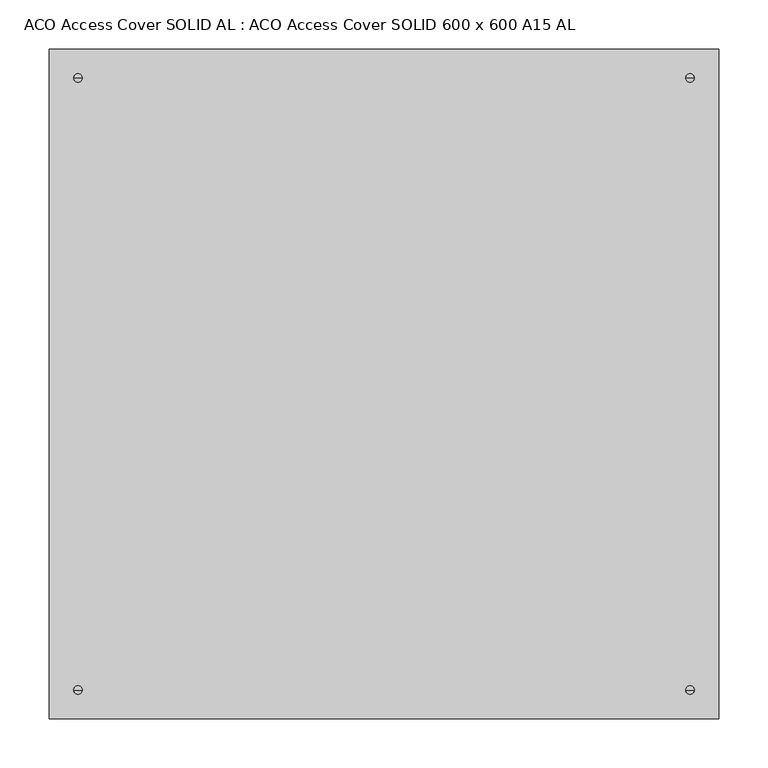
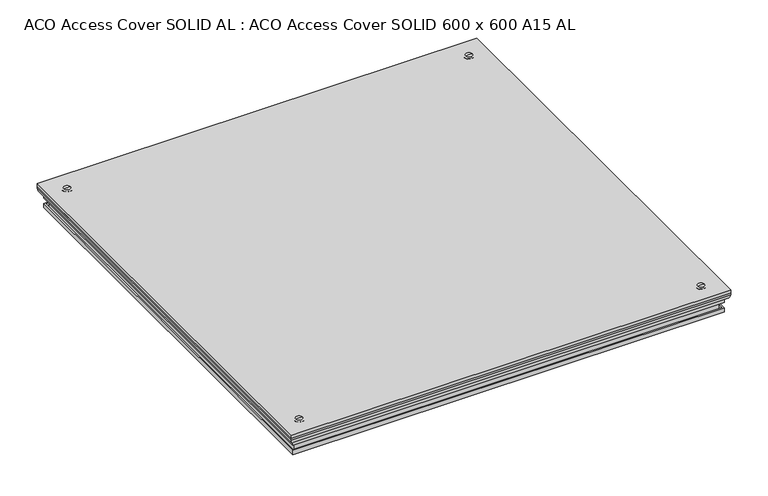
"""IFC4 building model written with IfcOpenShell, lengths in millimetres: proxy geometry, ACO Access Cover SOLID AL : ACO Access Cover SOLID 600 x 600 A15 AL."""

from ifc_helpers import new_model, si_unit, point, frame, origin, place, context, project, spatial, polyline, circle_curve, ellipse_curve, trimmed, outline, extrude, source, transform, mapped, element, save
from ifc_brep_helpers import plane_surface, cylinder_surface, revolved_surface, advanced_brep


def aco_access_cover_solid_al_aco_access_cover_solid_600_x_600_7d305e2f(model_context):
    return source(origin(), model_context, "Body", "SolidModel", [
        extrude(outline(polyline([(339.0, -339.0), (-339.0, -339.0), (-339.0, 339.0), (339.0, 339.0), (339.0, -339.0)])), frame((0.0, 0.0, -5.0), z_axis=(0.0, 0.0, 1.0), x_axis=(1.0, 0.0, 0.0)), (0.0, 0.0, 1.0), 5.5),
        advanced_brep(
        [(307.1765, -310.0, -27.4), (312.8235, -310.0, -27.4), (310.0, -310.0, -27.4), (307.1765, -310.0, -24.9096875), (312.8235, -310.0, -24.9096875), (306.5, -310.0, -24.2331875), (313.5, -310.0, -24.2331875), (306.5, -310.0, -6.5622151), (313.5, -310.0, -6.5622151), (306.6863961, -310.0, -5.1463961), (313.3136039, -310.0, -5.1463961), (301.5305132, -310.0, 0.0094868), (318.4694868, -310.0, 0.0094868), (310.0, -310.0, 1.4820616)],
        [
            (0, 1, circle_curve(frame((310.0, -310.0, -27.4), z_axis=(0.0, 0.0, -1.0), x_axis=(1.0, 0.0, 0.0)), 2.8235)),
            (1, 2),
            (2, 0),
            (1, 0, circle_curve(frame((310.0, -310.0, -27.4), z_axis=(0.0, 0.0, -1.0), x_axis=(1.0, 0.0, 0.0)), 2.8235)),
            (3, 4, circle_curve(frame((310.0, -310.0, -24.9096875), z_axis=(0.0, 0.0, -1.0), x_axis=(1.0, 0.0, 0.0)), 2.8235)),
            (4, 1),
            (0, 3),
            (4, 3, circle_curve(frame((310.0, -310.0, -24.9096875), z_axis=(0.0, 0.0, -1.0), x_axis=(1.0, 0.0, 0.0)), 2.8235)),
            (5, 6, circle_curve(frame((310.0, -310.0, -24.2331875), z_axis=(0.0, 0.0, -1.0), x_axis=(1.0, 0.0, 0.0)), 3.5)),
            (6, 4),
            (3, 5),
            (6, 5, circle_curve(frame((310.0, -310.0, -24.2331875), z_axis=(0.0, 0.0, -1.0), x_axis=(1.0, 0.0, 0.0)), 3.5)),
            (7, 8, circle_curve(frame((310.0, -310.0, -6.5622151), z_axis=(0.0, 0.0, -1.0), x_axis=(1.0, 0.0, 0.0)), 3.5)),
            (8, 6),
            (5, 7),
            (8, 7, circle_curve(frame((310.0, -310.0, -6.5622151), z_axis=(0.0, 0.0, -1.0), x_axis=(1.0, 0.0, 0.0)), 3.5)),
            (9, 10, circle_curve(frame((310.0, -310.0, -5.1463961), z_axis=(0.0, 0.0, -1.0), x_axis=(1.0, 0.0, 0.0)), 3.3136039)),
            (10, 8, circle_curve(frame((313.95, -310.0, -5.7827922), z_axis=(0.0, 1.0, 0.0), x_axis=(1.0, 0.0, 0.0)), 0.9)),
            (7, 9, circle_curve(frame((306.05, -310.0, -5.7827922), z_axis=(0.0, 1.0, 0.0), x_axis=(-1.0, 0.0, 0.0)), 0.9)),
            (10, 9, circle_curve(frame((310.0, -310.0, -5.1463961), z_axis=(0.0, 0.0, -1.0), x_axis=(1.0, 0.0, 0.0)), 3.3136039)),
            (11, 12, circle_curve(frame((310.0, -310.0, 0.0094868), z_axis=(0.0, 0.0, -1.0), x_axis=(1.0, 0.0, 0.0)), 8.4694868)),
            (12, 10),
            (9, 11),
            (12, 11, circle_curve(frame((310.0, -310.0, 0.0094868), z_axis=(0.0, 0.0, -1.0), x_axis=(1.0, 0.0, 0.0)), 8.4694868)),
            (13, 12, circle_curve(frame((308.550307, -310.0, -31.9481579), z_axis=(0.0, 1.0, 0.0), x_axis=(1.0, 0.0, 0.0)), 33.4616375)),
            (11, 13, circle_curve(frame((311.449693, -310.0, -31.9481579), z_axis=(0.0, 1.0, 0.0), x_axis=(-1.0, 0.0, 0.0)), 33.4616375)),
        ],
        [
            plane_surface(frame((310.0, -310.0, -27.4), z_axis=(0.0, 0.0, -1.0), x_axis=(1.0, 0.0, 0.0))),
            cylinder_surface(frame((310.0, -310.0, 6.3110982), z_axis=(0.0, 0.0, 1.0), x_axis=(1.0, 0.0, 0.0)), 2.8235),
            revolved_surface(polyline([(312.8235, -310.0, -24.9096875), (313.5, -310.0, -24.2331875)]), (310.0, -310.0, 6.3110982), (0.0, 0.0, 1.0)),
            cylinder_surface(frame((310.0, -310.0, 6.3110982), z_axis=(0.0, 0.0, 1.0), x_axis=(1.0, 0.0, 0.0)), 3.5),
            revolved_surface(trimmed(ellipse_curve(frame((313.95, -310.0, -5.7827922), z_axis=(0.0, -1.0, 0.0), x_axis=(1.0, 0.0, 0.0)), 0.9, 0.9), [point((313.5, -310.0, -6.5622151))], [point((313.3136039, -310.0, -5.1463961))], True, "CARTESIAN"), (310.0, -310.0, 6.3110982), (0.0, 0.0, 1.0)),
            revolved_surface(polyline([(313.3136039, -310.0, -5.1463961), (318.4694868, -310.0, 0.0094868)]), (310.0, -310.0, 6.3110982), (0.0, 0.0, 1.0)),
            revolved_surface(trimmed(ellipse_curve(frame((308.550307, -310.0, -31.9481579), z_axis=(0.0, -1.0, 0.0), x_axis=(1.0, 0.0, 0.0)), 33.4616375, 33.4616375), [point((318.4694868, -310.0, 0.0094868))], [point((310.0, -310.0, 1.4820616))], True, "CARTESIAN"), (310.0, -310.0, 6.3110982), (0.0, 0.0, 1.0)),
        ],
        [
            (0, [[1, 2, 3]]),
            (0, [[4, -3, -2]]),
            (1, [[5, 6, -1, 7]]),
            (1, [[8, -7, -4, -6]]),
            (2, [[9, 10, -5, 11]]),
            (2, [[12, -11, -8, -10]]),
            (3, [[13, 14, -9, 15]]),
            (3, [[16, -15, -12, -14]]),
            (4, [[17, 18, -13, 19]]),
            (4, [[20, -19, -16, -18]]),
            (5, [[21, 22, -17, 23]]),
            (5, [[24, -23, -20, -22]]),
            (6, [[25, -21, 26]]),
            (6, [[-26, -24, -25]]),
        ],
    ),
        advanced_brep(
        [(-312.8235, -310.0, -27.4), (-307.1765, -310.0, -27.4), (-310.0, -310.0, -27.4), (-312.8235, -310.0, -24.9096875), (-307.1765, -310.0, -24.9096875), (-313.5, -310.0, -24.2331875), (-306.5, -310.0, -24.2331875), (-313.5, -310.0, -6.5622151), (-306.5, -310.0, -6.5622151), (-313.3136039, -310.0, -5.1463961), (-306.6863961, -310.0, -5.1463961), (-318.4694868, -310.0, 0.0094868), (-301.5305132, -310.0, 0.0094868), (-310.0, -310.0, 1.4820616)],
        [
            (0, 1, circle_curve(frame((-310.0, -310.0, -27.4), z_axis=(0.0, 0.0, -1.0), x_axis=(1.0, 0.0, 0.0)), 2.8235)),
            (1, 2),
            (2, 0),
            (1, 0, circle_curve(frame((-310.0, -310.0, -27.4), z_axis=(0.0, 0.0, -1.0), x_axis=(1.0, 0.0, 0.0)), 2.8235)),
            (3, 4, circle_curve(frame((-310.0, -310.0, -24.9096875), z_axis=(0.0, 0.0, -1.0), x_axis=(1.0, 0.0, 0.0)), 2.8235)),
            (4, 1),
            (0, 3),
            (4, 3, circle_curve(frame((-310.0, -310.0, -24.9096875), z_axis=(0.0, 0.0, -1.0), x_axis=(1.0, 0.0, 0.0)), 2.8235)),
            (5, 6, circle_curve(frame((-310.0, -310.0, -24.2331875), z_axis=(0.0, 0.0, -1.0), x_axis=(1.0, 0.0, 0.0)), 3.5)),
            (6, 4),
            (3, 5),
            (6, 5, circle_curve(frame((-310.0, -310.0, -24.2331875), z_axis=(0.0, 0.0, -1.0), x_axis=(1.0, 0.0, 0.0)), 3.5)),
            (7, 8, circle_curve(frame((-310.0, -310.0, -6.5622151), z_axis=(0.0, 0.0, -1.0), x_axis=(1.0, 0.0, 0.0)), 3.5)),
            (8, 6),
            (5, 7),
            (8, 7, circle_curve(frame((-310.0, -310.0, -6.5622151), z_axis=(0.0, 0.0, -1.0), x_axis=(1.0, 0.0, 0.0)), 3.5)),
            (9, 10, circle_curve(frame((-310.0, -310.0, -5.1463961), z_axis=(0.0, 0.0, -1.0), x_axis=(1.0, 0.0, 0.0)), 3.3136039)),
            (10, 8, circle_curve(frame((-306.05, -310.0, -5.7827922), z_axis=(0.0, 1.0, 0.0), x_axis=(1.0, 0.0, 0.0)), 0.9)),
            (7, 9, circle_curve(frame((-313.95, -310.0, -5.7827922), z_axis=(0.0, 1.0, 0.0), x_axis=(-1.0, 0.0, 0.0)), 0.9)),
            (10, 9, circle_curve(frame((-310.0, -310.0, -5.1463961), z_axis=(0.0, 0.0, -1.0), x_axis=(1.0, 0.0, 0.0)), 3.3136039)),
            (11, 12, circle_curve(frame((-310.0, -310.0, 0.0094868), z_axis=(0.0, 0.0, -1.0), x_axis=(1.0, 0.0, 0.0)), 8.4694868)),
            (12, 10),
            (9, 11),
            (12, 11, circle_curve(frame((-310.0, -310.0, 0.0094868), z_axis=(0.0, 0.0, -1.0), x_axis=(1.0, 0.0, 0.0)), 8.4694868)),
            (13, 12, circle_curve(frame((-311.449693, -310.0, -31.9481579), z_axis=(0.0, 1.0, 0.0), x_axis=(1.0, 0.0, 0.0)), 33.4616375)),
            (11, 13, circle_curve(frame((-308.550307, -310.0, -31.9481579), z_axis=(0.0, 1.0, 0.0), x_axis=(-1.0, 0.0, 0.0)), 33.4616375)),
        ],
        [
            plane_surface(frame((-310.0, -310.0, -27.4), z_axis=(0.0, 0.0, -1.0), x_axis=(1.0, 0.0, 0.0))),
            cylinder_surface(frame((-310.0, -310.0, 6.3110982), z_axis=(0.0, 0.0, 1.0), x_axis=(1.0, 0.0, 0.0)), 2.8235),
            revolved_surface(polyline([(-307.1765, -310.0, -24.9096875), (-306.5, -310.0, -24.2331875)]), (-310.0, -310.0, 6.3110982), (0.0, 0.0, 1.0)),
            cylinder_surface(frame((-310.0, -310.0, 6.3110982), z_axis=(0.0, 0.0, 1.0), x_axis=(1.0, 0.0, 0.0)), 3.5),
            revolved_surface(trimmed(ellipse_curve(frame((-306.05, -310.0, -5.7827922), z_axis=(0.0, -1.0, 0.0), x_axis=(1.0, 0.0, 0.0)), 0.9, 0.9), [point((-306.5, -310.0, -6.5622151))], [point((-306.6863961, -310.0, -5.1463961))], True, "CARTESIAN"), (-310.0, -310.0, 6.3110982), (0.0, 0.0, 1.0)),
            revolved_surface(polyline([(-306.6863961, -310.0, -5.1463961), (-301.5305132, -310.0, 0.0094868)]), (-310.0, -310.0, 6.3110982), (0.0, 0.0, 1.0)),
            revolved_surface(trimmed(ellipse_curve(frame((-311.449693, -310.0, -31.9481579), z_axis=(0.0, -1.0, 0.0), x_axis=(1.0, 0.0, 0.0)), 33.4616375, 33.4616375), [point((-301.5305132, -310.0, 0.0094868))], [point((-310.0, -310.0, 1.4820616))], True, "CARTESIAN"), (-310.0, -310.0, 6.3110982), (0.0, 0.0, 1.0)),
        ],
        [
            (0, [[1, 2, 3]]),
            (0, [[4, -3, -2]]),
            (1, [[5, 6, -1, 7]]),
            (1, [[8, -7, -4, -6]]),
            (2, [[9, 10, -5, 11]]),
            (2, [[12, -11, -8, -10]]),
            (3, [[13, 14, -9, 15]]),
            (3, [[16, -15, -12, -14]]),
            (4, [[17, 18, -13, 19]]),
            (4, [[20, -19, -16, -18]]),
            (5, [[21, 22, -17, 23]]),
            (5, [[24, -23, -20, -22]]),
            (6, [[25, -21, 26]]),
            (6, [[-26, -24, -25]]),
        ],
    ),
        advanced_brep(
        [(-312.8235, 310.0, -27.4), (-307.1765, 310.0, -27.4), (-310.0, 310.0, -27.4), (-312.8235, 310.0, -24.9096875), (-307.1765, 310.0, -24.9096875), (-313.5, 310.0, -24.2331875), (-306.5, 310.0, -24.2331875), (-313.5, 310.0, -6.5622151), (-306.5, 310.0, -6.5622151), (-313.3136039, 310.0, -5.1463961), (-306.6863961, 310.0, -5.1463961), (-318.4694868, 310.0, 0.0094868), (-301.5305132, 310.0, 0.0094868), (-310.0, 310.0, 1.4820616)],
        [
            (0, 1, circle_curve(frame((-310.0, 310.0, -27.4), z_axis=(0.0, 0.0, -1.0), x_axis=(1.0, 0.0, 0.0)), 2.8235)),
            (1, 2),
            (2, 0),
            (1, 0, circle_curve(frame((-310.0, 310.0, -27.4), z_axis=(0.0, 0.0, -1.0), x_axis=(1.0, 0.0, 0.0)), 2.8235)),
            (3, 4, circle_curve(frame((-310.0, 310.0, -24.9096875), z_axis=(0.0, 0.0, -1.0), x_axis=(1.0, 0.0, 0.0)), 2.8235)),
            (4, 1),
            (0, 3),
            (4, 3, circle_curve(frame((-310.0, 310.0, -24.9096875), z_axis=(0.0, 0.0, -1.0), x_axis=(1.0, 0.0, 0.0)), 2.8235)),
            (5, 6, circle_curve(frame((-310.0, 310.0, -24.2331875), z_axis=(0.0, 0.0, -1.0), x_axis=(1.0, 0.0, 0.0)), 3.5)),
            (6, 4),
            (3, 5),
            (6, 5, circle_curve(frame((-310.0, 310.0, -24.2331875), z_axis=(0.0, 0.0, -1.0), x_axis=(1.0, 0.0, 0.0)), 3.5)),
            (7, 8, circle_curve(frame((-310.0, 310.0, -6.5622151), z_axis=(0.0, 0.0, -1.0), x_axis=(1.0, 0.0, 0.0)), 3.5)),
            (8, 6),
            (5, 7),
            (8, 7, circle_curve(frame((-310.0, 310.0, -6.5622151), z_axis=(0.0, 0.0, -1.0), x_axis=(1.0, 0.0, 0.0)), 3.5)),
            (9, 10, circle_curve(frame((-310.0, 310.0, -5.1463961), z_axis=(0.0, 0.0, -1.0), x_axis=(1.0, 0.0, 0.0)), 3.3136039)),
            (10, 8, circle_curve(frame((-306.05, 310.0, -5.7827922), z_axis=(0.0, 1.0, 0.0), x_axis=(1.0, 0.0, 0.0)), 0.9)),
            (7, 9, circle_curve(frame((-313.95, 310.0, -5.7827922), z_axis=(0.0, 1.0, 0.0), x_axis=(-1.0, 0.0, 0.0)), 0.9)),
            (10, 9, circle_curve(frame((-310.0, 310.0, -5.1463961), z_axis=(0.0, 0.0, -1.0), x_axis=(1.0, 0.0, 0.0)), 3.3136039)),
            (11, 12, circle_curve(frame((-310.0, 310.0, 0.0094868), z_axis=(0.0, 0.0, -1.0), x_axis=(1.0, 0.0, 0.0)), 8.4694868)),
            (12, 10),
            (9, 11),
            (12, 11, circle_curve(frame((-310.0, 310.0, 0.0094868), z_axis=(0.0, 0.0, -1.0), x_axis=(1.0, 0.0, 0.0)), 8.4694868)),
            (13, 12, circle_curve(frame((-311.449693, 310.0, -31.9481579), z_axis=(0.0, 1.0, 0.0), x_axis=(1.0, 0.0, 0.0)), 33.4616375)),
            (11, 13, circle_curve(frame((-308.550307, 310.0, -31.9481579), z_axis=(0.0, 1.0, 0.0), x_axis=(-1.0, 0.0, 0.0)), 33.4616375)),
        ],
        [
            plane_surface(frame((-310.0, 310.0, -27.4), z_axis=(0.0, 0.0, -1.0), x_axis=(1.0, 0.0, 0.0))),
            cylinder_surface(frame((-310.0, 310.0, 6.3110982), z_axis=(0.0, 0.0, 1.0), x_axis=(1.0, 0.0, 0.0)), 2.8235),
            revolved_surface(polyline([(-307.1765, 310.0, -24.9096875), (-306.5, 310.0, -24.2331875)]), (-310.0, 310.0, 6.3110982), (0.0, 0.0, 1.0)),
            cylinder_surface(frame((-310.0, 310.0, 6.3110982), z_axis=(0.0, 0.0, 1.0), x_axis=(1.0, 0.0, 0.0)), 3.5),
            revolved_surface(trimmed(ellipse_curve(frame((-306.05, 310.0, -5.7827922), z_axis=(0.0, -1.0, 0.0), x_axis=(1.0, 0.0, 0.0)), 0.9, 0.9), [point((-306.5, 310.0, -6.5622151))], [point((-306.6863961, 310.0, -5.1463961))], True, "CARTESIAN"), (-310.0, 310.0, 6.3110982), (0.0, 0.0, 1.0)),
            revolved_surface(polyline([(-306.6863961, 310.0, -5.1463961), (-301.5305132, 310.0, 0.0094868)]), (-310.0, 310.0, 6.3110982), (0.0, 0.0, 1.0)),
            revolved_surface(trimmed(ellipse_curve(frame((-311.449693, 310.0, -31.9481579), z_axis=(0.0, -1.0, 0.0), x_axis=(1.0, 0.0, 0.0)), 33.4616375, 33.4616375), [point((-301.5305132, 310.0, 0.0094868))], [point((-310.0, 310.0, 1.4820616))], True, "CARTESIAN"), (-310.0, 310.0, 6.3110982), (0.0, 0.0, 1.0)),
        ],
        [
            (0, [[1, 2, 3]]),
            (0, [[4, -3, -2]]),
            (1, [[5, 6, -1, 7]]),
            (1, [[8, -7, -4, -6]]),
            (2, [[9, 10, -5, 11]]),
            (2, [[12, -11, -8, -10]]),
            (3, [[13, 14, -9, 15]]),
            (3, [[16, -15, -12, -14]]),
            (4, [[17, 18, -13, 19]]),
            (4, [[20, -19, -16, -18]]),
            (5, [[21, 22, -17, 23]]),
            (5, [[24, -23, -20, -22]]),
            (6, [[25, -21, 26]]),
            (6, [[-26, -24, -25]]),
        ],
    ),
        advanced_brep(
        [(307.1765, 310.0, -27.4), (312.8235, 310.0, -27.4), (310.0, 310.0, -27.4), (307.1765, 310.0, -24.9096875), (312.8235, 310.0, -24.9096875), (306.5, 310.0, -24.2331875), (313.5, 310.0, -24.2331875), (306.5, 310.0, -6.5622151), (313.5, 310.0, -6.5622151), (306.6863961, 310.0, -5.1463961), (313.3136039, 310.0, -5.1463961), (301.5305132, 310.0, 0.0094868), (318.4694868, 310.0, 0.0094868), (310.0, 310.0, 1.4820616)],
        [
            (0, 1, circle_curve(frame((310.0, 310.0, -27.4), z_axis=(0.0, 0.0, -1.0), x_axis=(1.0, 0.0, 0.0)), 2.8235)),
            (1, 2),
            (2, 0),
            (1, 0, circle_curve(frame((310.0, 310.0, -27.4), z_axis=(0.0, 0.0, -1.0), x_axis=(1.0, 0.0, 0.0)), 2.8235)),
            (3, 4, circle_curve(frame((310.0, 310.0, -24.9096875), z_axis=(0.0, 0.0, -1.0), x_axis=(1.0, 0.0, 0.0)), 2.8235)),
            (4, 1),
            (0, 3),
            (4, 3, circle_curve(frame((310.0, 310.0, -24.9096875), z_axis=(0.0, 0.0, -1.0), x_axis=(1.0, 0.0, 0.0)), 2.8235)),
            (5, 6, circle_curve(frame((310.0, 310.0, -24.2331875), z_axis=(0.0, 0.0, -1.0), x_axis=(1.0, 0.0, 0.0)), 3.5)),
            (6, 4),
            (3, 5),
            (6, 5, circle_curve(frame((310.0, 310.0, -24.2331875), z_axis=(0.0, 0.0, -1.0), x_axis=(1.0, 0.0, 0.0)), 3.5)),
            (7, 8, circle_curve(frame((310.0, 310.0, -6.5622151), z_axis=(0.0, 0.0, -1.0), x_axis=(1.0, 0.0, 0.0)), 3.5)),
            (8, 6),
            (5, 7),
            (8, 7, circle_curve(frame((310.0, 310.0, -6.5622151), z_axis=(0.0, 0.0, -1.0), x_axis=(1.0, 0.0, 0.0)), 3.5)),
            (9, 10, circle_curve(frame((310.0, 310.0, -5.1463961), z_axis=(0.0, 0.0, -1.0), x_axis=(1.0, 0.0, 0.0)), 3.3136039)),
            (10, 8, circle_curve(frame((313.95, 310.0, -5.7827922), z_axis=(0.0, 1.0, 0.0), x_axis=(1.0, 0.0, 0.0)), 0.9)),
            (7, 9, circle_curve(frame((306.05, 310.0, -5.7827922), z_axis=(0.0, 1.0, 0.0), x_axis=(-1.0, 0.0, 0.0)), 0.9)),
            (10, 9, circle_curve(frame((310.0, 310.0, -5.1463961), z_axis=(0.0, 0.0, -1.0), x_axis=(1.0, 0.0, 0.0)), 3.3136039)),
            (11, 12, circle_curve(frame((310.0, 310.0, 0.0094868), z_axis=(0.0, 0.0, -1.0), x_axis=(1.0, 0.0, 0.0)), 8.4694868)),
            (12, 10),
            (9, 11),
            (12, 11, circle_curve(frame((310.0, 310.0, 0.0094868), z_axis=(0.0, 0.0, -1.0), x_axis=(1.0, 0.0, 0.0)), 8.4694868)),
            (13, 12, circle_curve(frame((308.550307, 310.0, -31.9481579), z_axis=(0.0, 1.0, 0.0), x_axis=(1.0, 0.0, 0.0)), 33.4616375)),
            (11, 13, circle_curve(frame((311.449693, 310.0, -31.9481579), z_axis=(0.0, 1.0, 0.0), x_axis=(-1.0, 0.0, 0.0)), 33.4616375)),
        ],
        [
            plane_surface(frame((310.0, 310.0, -27.4), z_axis=(0.0, 0.0, -1.0), x_axis=(1.0, 0.0, 0.0))),
            cylinder_surface(frame((310.0, 310.0, 6.3110982), z_axis=(0.0, 0.0, 1.0), x_axis=(1.0, 0.0, 0.0)), 2.8235),
            revolved_surface(polyline([(312.8235, 310.0, -24.9096875), (313.5, 310.0, -24.2331875)]), (310.0, 310.0, 6.3110982), (0.0, 0.0, 1.0)),
            cylinder_surface(frame((310.0, 310.0, 6.3110982), z_axis=(0.0, 0.0, 1.0), x_axis=(1.0, 0.0, 0.0)), 3.5),
            revolved_surface(trimmed(ellipse_curve(frame((313.95, 310.0, -5.7827922), z_axis=(0.0, -1.0, 0.0), x_axis=(1.0, 0.0, 0.0)), 0.9, 0.9), [point((313.5, 310.0, -6.5622151))], [point((313.3136039, 310.0, -5.1463961))], True, "CARTESIAN"), (310.0, 310.0, 6.3110982), (0.0, 0.0, 1.0)),
            revolved_surface(polyline([(313.3136039, 310.0, -5.1463961), (318.4694868, 310.0, 0.0094868)]), (310.0, 310.0, 6.3110982), (0.0, 0.0, 1.0)),
            revolved_surface(trimmed(ellipse_curve(frame((308.550307, 310.0, -31.9481579), z_axis=(0.0, -1.0, 0.0), x_axis=(1.0, 0.0, 0.0)), 33.4616375, 33.4616375), [point((318.4694868, 310.0, 0.0094868))], [point((310.0, 310.0, 1.4820616))], True, "CARTESIAN"), (310.0, 310.0, 6.3110982), (0.0, 0.0, 1.0)),
        ],
        [
            (0, [[1, 2, 3]]),
            (0, [[4, -3, -2]]),
            (1, [[5, 6, -1, 7]]),
            (1, [[8, -7, -4, -6]]),
            (2, [[9, 10, -5, 11]]),
            (2, [[12, -11, -8, -10]]),
            (3, [[13, 14, -9, 15]]),
            (3, [[16, -15, -12, -14]]),
            (4, [[17, 18, -13, 19]]),
            (4, [[20, -19, -16, -18]]),
            (5, [[21, 22, -17, 23]]),
            (5, [[24, -23, -20, -22]]),
            (6, [[25, -21, 26]]),
            (6, [[-26, -24, -25]]),
        ],
    ),
        advanced_brep(
        [(332.6, 332.6, -16.929523), (339.0, 339.0, -7.6), (339.0, -339.0, -7.6), (332.6, -332.6, -16.929523), (-339.0, -339.0, -7.6), (-332.6, -332.6, -16.929523), (-339.0, 339.0, -7.6), (-332.6, 332.6, -16.929523), (313.95, 313.95, -33.7), (313.95, 313.95, -37.5), (313.95, -313.95, -37.5), (313.95, -313.95, -33.7), (311.95, 311.95, -31.2), (311.95, 311.95, -33.7), (311.95, -311.95, -33.7), (311.95, -311.95, -31.2), (-313.95, -313.95, -37.5), (-313.95, -313.95, -33.7), (-311.95, -311.95, -33.7), (-311.95, -311.95, -31.2), (-313.95, 313.95, -37.5), (-313.95, 313.95, -33.7), (-311.95, 311.95, -33.7), (-311.95, 311.95, -31.2), (332.6, -332.6, -37.5), (-332.6, -332.6, -37.5), (-332.6, 332.6, -37.5), (332.6, 332.6, -37.5), (283.95, 283.95, -31.2), (-283.95, 283.95, -31.2), (-283.95, -283.95, -31.2), (283.95, -283.95, -31.2), (332.6, 332.6, -22.0), (332.6, -332.6, -22.0), (332.6, 332.6, -30.5), (332.6, -332.6, -30.5), (-332.6, -332.6, -22.0), (-332.6, -332.6, -30.5), (-332.6, 332.6, -22.0), (-332.6, 332.6, -30.5), (330.6, 330.6, -22.0), (-330.6, 330.6, -22.0), (-330.6, -330.6, -22.0), (330.6, -330.6, -22.0), (330.6, -330.6, -30.5), (-330.6, -330.6, -30.5), (-330.6, 330.6, -30.5), (330.6, 330.6, -30.5), (330.6, 330.6, -16.0), (330.6, -330.6, -16.0), (325.0, 325.0, -17.4453812), (325.0, 325.0, -16.0), (325.0, -325.0, -16.0), (325.0, -325.0, -17.4453812), (327.5, 327.5, -35.5), (327.5, 327.5, -17.4453812), (327.5, -327.5, -17.4453812), (327.5, -327.5, -35.5), (330.6, 330.6, -35.5), (330.6, -330.6, -35.5), (-330.6, -330.6, -16.0), (-325.0, -325.0, -16.0), (-325.0, -325.0, -17.4453812), (-327.5, -327.5, -17.4453812), (-327.5, -327.5, -35.5), (-330.6, -330.6, -35.5), (-330.6, 330.6, -16.0), (-325.0, 325.0, -16.0), (-325.0, 325.0, -17.4453812), (-327.5, 327.5, -17.4453812), (-327.5, 327.5, -35.5), (-330.6, 330.6, -35.5), (283.95, -283.95, -27.4), (283.95, 283.95, -27.4), (323.1, 323.1, -12.7980985), (323.1, 323.1, -19.2), (323.1, -323.1, -19.2), (323.1, -323.1, -12.7980985), (322.0, 322.0, -9.0368109), (322.0, -322.0, -9.0368109), (322.0, 322.0, -5.0), (322.0, -322.0, -5.0), (-283.95, -283.95, -27.4), (-323.1, -323.1, -19.2), (-323.1, -323.1, -12.7980985), (-322.0, -322.0, -9.0368109), (-322.0, -322.0, -5.0), (-283.95, 283.95, -27.4), (-323.1, 323.1, -19.2), (-323.1, 323.1, -12.7980985), (-322.0, 322.0, -9.0368109), (-322.0, 322.0, -5.0), (339.0, 339.0, -5.0), (-339.0, 339.0, -5.0), (-339.0, -339.0, -5.0), (339.0, -339.0, -5.0), (302.5, 302.5, -22.0), (302.5, 302.5, -27.4), (302.5, -302.5, -27.4), (302.5, -302.5, -22.0), (305.25, 305.25, -19.2), (305.25, 305.25, -22.0), (305.25, -305.25, -22.0), (305.25, -305.25, -19.2), (-302.5, -302.5, -27.4), (-302.5, -302.5, -22.0), (-305.25, -305.25, -22.0), (-305.25, -305.25, -19.2), (-302.5, 302.5, -27.4), (-302.5, 302.5, -22.0), (-305.25, 305.25, -22.0), (-305.25, 305.25, -19.2)],
        [
            (0, 1, ellipse_curve(frame((329.0, 329.0, -7.6), z_axis=(0.7071067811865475, -0.7071067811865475, 0.0), x_axis=(0.7071067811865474, 0.7071067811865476, 0.0)), 14.1421356, 10.0)),
            (1, 2),
            (2, 3, ellipse_curve(frame((329.0, -329.0, -7.6), z_axis=(0.7071067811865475, 0.7071067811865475, 0.0), x_axis=(-0.7071067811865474, 0.7071067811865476, 0.0)), 14.1421356, 10.0)),
            (3, 0),
            (2, 4),
            (4, 5, ellipse_curve(frame((-329.0, -329.0, -7.6), z_axis=(0.7071067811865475, -0.7071067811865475, 0.0), x_axis=(0.7071067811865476, 0.7071067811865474, 0.0)), 14.1421356, 10.0)),
            (5, 3),
            (4, 6),
            (6, 7, ellipse_curve(frame((-329.0, 329.0, -7.6), z_axis=(-0.7071067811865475, -0.7071067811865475, 0.0), x_axis=(0.7071067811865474, -0.7071067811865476, 0.0)), 14.1421356, 10.0)),
            (7, 5),
            (6, 1),
            (0, 7),
            (8, 9),
            (9, 10),
            (10, 11),
            (11, 8),
            (12, 13),
            (13, 14),
            (14, 15),
            (15, 12),
            (10, 16),
            (16, 17),
            (17, 11),
            (14, 18),
            (18, 19),
            (19, 15),
            (16, 20),
            (20, 21),
            (21, 17),
            (18, 22),
            (22, 23),
            (23, 19),
            (24, 25),
            (25, 26),
            (26, 27),
            (27, 24),
            (9, 20),
            (8, 21),
            (13, 22),
            (12, 23),
            (28, 29),
            (29, 30),
            (30, 31),
            (31, 28),
            (32, 0),
            (3, 33),
            (33, 32),
            (27, 34),
            (34, 35),
            (35, 24),
            (5, 36),
            (36, 33),
            (35, 37),
            (37, 25),
            (7, 38),
            (38, 36),
            (37, 39),
            (39, 26),
            (32, 38),
            (40, 41),
            (41, 42),
            (42, 43),
            (43, 40),
            (34, 39),
            (44, 45),
            (45, 46),
            (46, 47),
            (47, 44),
            (48, 40),
            (43, 49),
            (49, 48),
            (50, 51),
            (51, 52),
            (52, 53),
            (53, 50),
            (54, 55),
            (55, 56),
            (56, 57),
            (57, 54),
            (47, 58),
            (58, 59),
            (59, 44),
            (42, 60),
            (60, 49),
            (52, 61),
            (61, 62),
            (62, 53),
            (56, 63),
            (63, 64),
            (64, 57),
            (59, 65),
            (65, 45),
            (41, 66),
            (66, 60),
            (61, 67),
            (67, 68),
            (68, 62),
            (63, 69),
            (69, 70),
            (70, 64),
            (65, 71),
            (71, 46),
            (48, 66),
            (51, 67),
            (50, 68),
            (55, 69),
            (54, 70),
            (58, 71),
            (31, 72),
            (72, 73),
            (73, 28),
            (74, 75),
            (75, 76),
            (76, 77),
            (77, 74),
            (78, 74, ellipse_curve(frame((331.5, 331.5, -8.3), z_axis=(0.7071067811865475, -0.7071067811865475, 0.0), x_axis=(0.7071067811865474, 0.7071067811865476, 0.0)), 13.4753768, 9.5285303)),
            (77, 79, ellipse_curve(frame((331.5, -331.5, -8.3), z_axis=(0.7071067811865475, 0.7071067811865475, 0.0), x_axis=(-0.7071067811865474, 0.7071067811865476, 0.0)), 13.4753768, 9.5285303)),
            (79, 78),
            (80, 78),
            (79, 81),
            (81, 80),
            (30, 82),
            (82, 72),
            (76, 83),
            (83, 84),
            (84, 77),
            (84, 85, ellipse_curve(frame((-331.5, -331.5, -8.3), z_axis=(0.7071067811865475, -0.7071067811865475, 0.0), x_axis=(0.7071067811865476, 0.7071067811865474, 0.0)), 13.4753768, 9.5285303)),
            (85, 79),
            (85, 86),
            (86, 81),
            (29, 87),
            (87, 82),
            (83, 88),
            (88, 89),
            (89, 84),
            (89, 90, ellipse_curve(frame((-331.5, 331.5, -8.3), z_axis=(-0.7071067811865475, -0.7071067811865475, 0.0), x_axis=(0.7071067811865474, -0.7071067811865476, 0.0)), 13.4753768, 9.5285303)),
            (90, 85),
            (90, 91),
            (91, 86),
            (73, 87),
            (88, 75),
            (74, 89),
            (78, 90),
            (80, 91),
            (92, 93),
            (93, 94),
            (94, 95),
            (95, 92),
            (96, 97),
            (97, 98),
            (98, 99),
            (99, 96),
            (100, 101),
            (101, 102),
            (102, 103),
            (103, 100),
            (98, 104),
            (104, 105),
            (105, 99),
            (102, 106),
            (106, 107),
            (107, 103),
            (104, 108),
            (108, 109),
            (109, 105),
            (106, 110),
            (110, 111),
            (111, 107),
            (97, 108),
            (96, 109),
            (101, 110),
            (100, 111),
            (1, 92),
            (95, 2),
            (94, 4),
            (93, 6),
        ],
        [
            cylinder_surface(frame((329.0, 339.0, -7.6), z_axis=(0.0, 1.0, 0.0), x_axis=(1.0, 0.0, 0.0)), 10.0),
            cylinder_surface(frame((339.0, -329.0, -7.6), z_axis=(1.0, 0.0, 0.0), x_axis=(0.0, -1.0, 0.0)), 10.0),
            cylinder_surface(frame((-329.0, -339.0, -7.6), z_axis=(0.0, -1.0, 0.0), x_axis=(-1.0, 0.0, 0.0)), 10.0),
            cylinder_surface(frame((-339.0, 329.0, -7.6), z_axis=(-1.0, 0.0, 0.0), x_axis=(0.0, 1.0, 0.0)), 10.0),
            plane_surface(frame((313.95, 313.95, -37.5), z_axis=(-1.0, 0.0, 0.0), x_axis=(0.0, -1.0, 0.0))),
            plane_surface(frame((311.95, 311.95, -33.7), z_axis=(-1.0, 0.0, 0.0), x_axis=(0.0, -1.0, 0.0))),
            plane_surface(frame((313.95, -313.95, -37.5), z_axis=(0.0, 1.0, 0.0), x_axis=(-1.0, 0.0, 0.0))),
            plane_surface(frame((311.95, -311.95, -33.7), z_axis=(0.0, 1.0, 0.0), x_axis=(-1.0, 0.0, 0.0))),
            plane_surface(frame((-313.95, -313.95, -37.5), z_axis=(1.0, 0.0, 0.0), x_axis=(0.0, 1.0, 0.0))),
            plane_surface(frame((-311.95, -311.95, -33.7), z_axis=(1.0, 0.0, 0.0), x_axis=(0.0, 1.0, 0.0))),
            plane_surface(frame((-332.6, 332.6, -37.5), z_axis=(0.0, 0.0, -1.0), x_axis=(1.0, 0.0, 0.0))),
            plane_surface(frame((-313.95, 313.95, -37.5), z_axis=(0.0, -1.0, 0.0), x_axis=(1.0, 0.0, 0.0))),
            plane_surface(frame((-313.95, 313.95, -33.7), z_axis=(0.0, 0.0, -1.0), x_axis=(1.0, 0.0, 0.0))),
            plane_surface(frame((-311.95, 311.95, -33.7), z_axis=(0.0, -1.0, 0.0), x_axis=(1.0, 0.0, 0.0))),
            plane_surface(frame((-311.95, 311.95, -31.2), z_axis=(0.0, 0.0, -1.0), x_axis=(1.0, 0.0, 0.0))),
            plane_surface(frame((332.6, 332.6, -16.929523), z_axis=(1.0, 0.0, 0.0), x_axis=(0.0, -1.0, 0.0))),
            plane_surface(frame((332.6, 332.6, -30.5), z_axis=(1.0, 0.0, 0.0), x_axis=(0.0, -1.0, 0.0))),
            plane_surface(frame((332.6, -332.6, -16.929523), z_axis=(0.0, -1.0, 0.0), x_axis=(-1.0, 0.0, 0.0))),
            plane_surface(frame((332.6, -332.6, -30.5), z_axis=(0.0, -1.0, 0.0), x_axis=(-1.0, 0.0, 0.0))),
            plane_surface(frame((-332.6, -332.6, -16.929523), z_axis=(-1.0, 0.0, 0.0), x_axis=(0.0, 1.0, 0.0))),
            plane_surface(frame((-332.6, -332.6, -30.5), z_axis=(-1.0, 0.0, 0.0), x_axis=(0.0, 1.0, 0.0))),
            plane_surface(frame((-332.6, 332.6, -16.929523), z_axis=(0.0, 1.0, 0.0), x_axis=(1.0, 0.0, 0.0))),
            plane_surface(frame((-332.6, 332.6, -22.0), z_axis=(0.0, 0.0, -1.0), x_axis=(1.0, 0.0, 0.0))),
            plane_surface(frame((-330.6, 330.6, -30.5), z_axis=(0.0, 0.0, 1.0), x_axis=(1.0, 0.0, 0.0))),
            plane_surface(frame((-332.6, 332.6, -30.5), z_axis=(0.0, 1.0, 0.0), x_axis=(1.0, 0.0, 0.0))),
            plane_surface(frame((330.6, 330.6, -22.0), z_axis=(-1.0, 0.0, 0.0), x_axis=(0.0, -1.0, 0.0))),
            plane_surface(frame((325.0, 325.0, -16.0), z_axis=(1.0, 0.0, 0.0), x_axis=(0.0, -1.0, 0.0))),
            plane_surface(frame((327.5, 327.5, -17.4453812), z_axis=(1.0, 0.0, 0.0), x_axis=(0.0, -1.0, 0.0))),
            plane_surface(frame((330.6, 330.6, -35.5), z_axis=(-1.0, 0.0, 0.0), x_axis=(0.0, -1.0, 0.0))),
            plane_surface(frame((330.6, -330.6, -22.0), z_axis=(0.0, 1.0, 0.0), x_axis=(-1.0, 0.0, 0.0))),
            plane_surface(frame((325.0, -325.0, -16.0), z_axis=(0.0, -1.0, 0.0), x_axis=(-1.0, 0.0, 0.0))),
            plane_surface(frame((327.5, -327.5, -17.4453812), z_axis=(0.0, -1.0, 0.0), x_axis=(-1.0, 0.0, 0.0))),
            plane_surface(frame((330.6, -330.6, -35.5), z_axis=(0.0, 1.0, 0.0), x_axis=(-1.0, 0.0, 0.0))),
            plane_surface(frame((-330.6, -330.6, -22.0), z_axis=(1.0, 0.0, 0.0), x_axis=(0.0, 1.0, 0.0))),
            plane_surface(frame((-325.0, -325.0, -16.0), z_axis=(-1.0, 0.0, 0.0), x_axis=(0.0, 1.0, 0.0))),
            plane_surface(frame((-327.5, -327.5, -17.4453812), z_axis=(-1.0, 0.0, 0.0), x_axis=(0.0, 1.0, 0.0))),
            plane_surface(frame((-330.6, -330.6, -35.5), z_axis=(1.0, 0.0, 0.0), x_axis=(0.0, 1.0, 0.0))),
            plane_surface(frame((-330.6, 330.6, -22.0), z_axis=(0.0, -1.0, 0.0), x_axis=(1.0, 0.0, 0.0))),
            plane_surface(frame((-330.6, 330.6, -16.0), z_axis=(0.0, 0.0, -1.0), x_axis=(1.0, 0.0, 0.0))),
            plane_surface(frame((-325.0, 325.0, -16.0), z_axis=(0.0, 1.0, 0.0), x_axis=(1.0, 0.0, 0.0))),
            plane_surface(frame((-325.0, 325.0, -17.4453812), z_axis=(0.0, 0.0, 1.0), x_axis=(1.0, 0.0, 0.0))),
            plane_surface(frame((-327.5, 327.5, -17.4453812), z_axis=(0.0, 1.0, 0.0), x_axis=(1.0, 0.0, 0.0))),
            plane_surface(frame((-327.5, 327.5, -35.5), z_axis=(0.0, 0.0, 1.0), x_axis=(1.0, 0.0, 0.0))),
            plane_surface(frame((-330.6, 330.6, -35.5), z_axis=(0.0, -1.0, 0.0), x_axis=(1.0, 0.0, 0.0))),
            plane_surface(frame((283.95, 283.95, -29.7), z_axis=(-1.0, 0.0, 0.0), x_axis=(0.0, -1.0, 0.0))),
            plane_surface(frame((323.1, 323.1, -19.2), z_axis=(-1.0, 0.0, 0.0), x_axis=(0.0, -1.0, 0.0))),
            cylinder_surface(frame((331.5, 339.0, -8.3), z_axis=(0.0, 1.0, 0.0), x_axis=(1.0, 0.0, 0.0)), 9.5285303),
            plane_surface(frame((322.0, 322.0, -9.0368109), z_axis=(-1.0, 0.0, 0.0), x_axis=(0.0, -1.0, 0.0))),
            plane_surface(frame((283.95, -283.95, -29.7), z_axis=(0.0, 1.0, 0.0), x_axis=(-1.0, 0.0, 0.0))),
            plane_surface(frame((323.1, -323.1, -19.2), z_axis=(0.0, 1.0, 0.0), x_axis=(-1.0, 0.0, 0.0))),
            cylinder_surface(frame((339.0, -331.5, -8.3), z_axis=(1.0, 0.0, 0.0), x_axis=(0.0, -1.0, 0.0)), 9.5285303),
            plane_surface(frame((322.0, -322.0, -9.0368109), z_axis=(0.0, 1.0, 0.0), x_axis=(-1.0, 0.0, 0.0))),
            plane_surface(frame((-283.95, -283.95, -29.7), z_axis=(1.0, 0.0, 0.0), x_axis=(0.0, 1.0, 0.0))),
            plane_surface(frame((-323.1, -323.1, -19.2), z_axis=(1.0, 0.0, 0.0), x_axis=(0.0, 1.0, 0.0))),
            cylinder_surface(frame((-331.5, -339.0, -8.3), z_axis=(0.0, -1.0, 0.0), x_axis=(-1.0, 0.0, 0.0)), 9.5285303),
            plane_surface(frame((-322.0, -322.0, -9.0368109), z_axis=(1.0, 0.0, 0.0), x_axis=(0.0, 1.0, 0.0))),
            plane_surface(frame((-283.95, 283.95, -29.7), z_axis=(0.0, -1.0, 0.0), x_axis=(1.0, 0.0, 0.0))),
            plane_surface(frame((-323.1, 323.1, -19.2), z_axis=(0.0, -1.0, 0.0), x_axis=(1.0, 0.0, 0.0))),
            cylinder_surface(frame((-339.0, 331.5, -8.3), z_axis=(-1.0, 0.0, 0.0), x_axis=(0.0, 1.0, 0.0)), 9.5285303),
            plane_surface(frame((-322.0, 322.0, -9.0368109), z_axis=(0.0, -1.0, 0.0), x_axis=(1.0, 0.0, 0.0))),
            plane_surface(frame((-322.0, 322.0, -5.0), z_axis=(0.0, 0.0, 1.0), x_axis=(1.0, 0.0, 0.0))),
            plane_surface(frame((302.5, 302.5, -27.4), z_axis=(-1.0, 0.0, 0.0), x_axis=(0.0, -1.0, 0.0))),
            plane_surface(frame((305.25, 305.25, -22.0), z_axis=(-1.0, 0.0, 0.0), x_axis=(0.0, -1.0, 0.0))),
            plane_surface(frame((302.5, -302.5, -27.4), z_axis=(0.0, 1.0, 0.0), x_axis=(-1.0, 0.0, 0.0))),
            plane_surface(frame((305.25, -305.25, -22.0), z_axis=(0.0, 1.0, 0.0), x_axis=(-1.0, 0.0, 0.0))),
            plane_surface(frame((-302.5, -302.5, -27.4), z_axis=(1.0, 0.0, 0.0), x_axis=(0.0, 1.0, 0.0))),
            plane_surface(frame((-305.25, -305.25, -22.0), z_axis=(1.0, 0.0, 0.0), x_axis=(0.0, 1.0, 0.0))),
            plane_surface(frame((-283.95, 283.95, -27.4), z_axis=(0.0, 0.0, 1.0), x_axis=(1.0, 0.0, 0.0))),
            plane_surface(frame((-302.5, 302.5, -27.4), z_axis=(0.0, -1.0, 0.0), x_axis=(1.0, 0.0, 0.0))),
            plane_surface(frame((-302.5, 302.5, -22.0), z_axis=(0.0, 0.0, 1.0), x_axis=(1.0, 0.0, 0.0))),
            plane_surface(frame((-305.25, 305.25, -22.0), z_axis=(0.0, -1.0, 0.0), x_axis=(1.0, 0.0, 0.0))),
            plane_surface(frame((-305.25, 305.25, -19.2), z_axis=(0.0, 0.0, 1.0), x_axis=(1.0, 0.0, 0.0))),
            plane_surface(frame((339.0, 339.0, -5.0), z_axis=(1.0, 0.0, 0.0), x_axis=(0.0, -1.0, 0.0))),
            plane_surface(frame((339.0, -339.0, -5.0), z_axis=(0.0, -1.0, 0.0), x_axis=(-1.0, 0.0, 0.0))),
            plane_surface(frame((-339.0, -339.0, -5.0), z_axis=(-1.0, 0.0, 0.0), x_axis=(0.0, 1.0, 0.0))),
            plane_surface(frame((-339.0, 339.0, -5.0), z_axis=(0.0, 1.0, 0.0), x_axis=(1.0, 0.0, 0.0))),
        ],
        [
            (0, [[1, 2, 3, 4]]),
            (1, [[-3, 5, 6, 7]]),
            (2, [[-6, 8, 9, 10]]),
            (3, [[-9, 11, -1, 12]]),
            (4, [[13, 14, 15, 16]]),
            (5, [[17, 18, 19, 20]]),
            (6, [[-15, 21, 22, 23]]),
            (7, [[-19, 24, 25, 26]]),
            (8, [[-22, 27, 28, 29]]),
            (9, [[-25, 30, 31, 32]]),
            (10, [[33, 34, 35, 36], [37, -27, -21, -14]]),
            (11, [[-28, -37, -13, 38]]),
            (12, [[-23, -29, -38, -16], [39, -30, -24, -18]]),
            (13, [[-31, -39, -17, 40]]),
            (14, [[-26, -32, -40, -20], [41, 42, 43, 44]]),
            (15, [[45, -4, 46, 47]]),
            (16, [[48, 49, 50, -36]]),
            (17, [[-46, -7, 51, 52]]),
            (18, [[-50, 53, 54, -33]]),
            (19, [[-51, -10, 55, 56]]),
            (20, [[-54, 57, 58, -34]]),
            (21, [[-55, -12, -45, 59]]),
            (22, [[-52, -56, -59, -47], [60, 61, 62, 63]]),
            (23, [[64, -57, -53, -49], [65, 66, 67, 68]]),
            (24, [[-58, -64, -48, -35]]),
            (25, [[69, -63, 70, 71]]),
            (26, [[72, 73, 74, 75]]),
            (27, [[76, 77, 78, 79]]),
            (28, [[80, 81, 82, -68]]),
            (29, [[-70, -62, 83, 84]]),
            (30, [[-74, 85, 86, 87]]),
            (31, [[-78, 88, 89, 90]]),
            (32, [[-82, 91, 92, -65]]),
            (33, [[-83, -61, 93, 94]]),
            (34, [[-86, 95, 96, 97]]),
            (35, [[-89, 98, 99, 100]]),
            (36, [[-92, 101, 102, -66]]),
            (37, [[-93, -60, -69, 103]]),
            (38, [[-84, -94, -103, -71], [104, -95, -85, -73]]),
            (39, [[-96, -104, -72, 105]]),
            (40, [[106, -98, -88, -77], [-87, -97, -105, -75]]),
            (41, [[-99, -106, -76, 107]]),
            (42, [[108, -101, -91, -81], [-90, -100, -107, -79]]),
            (43, [[-102, -108, -80, -67]]),
            (44, [[-44, 109, 110, 111]]),
            (45, [[112, 113, 114, 115]]),
            (46, [[116, -115, 117, 118]]),
            (47, [[119, -118, 120, 121]]),
            (48, [[-109, -43, 122, 123]]),
            (49, [[-114, 124, 125, 126]]),
            (50, [[-117, -126, 127, 128]]),
            (51, [[-120, -128, 129, 130]]),
            (52, [[-122, -42, 131, 132]]),
            (53, [[-125, 133, 134, 135]]),
            (54, [[-127, -135, 136, 137]]),
            (55, [[-129, -137, 138, 139]]),
            (56, [[-131, -41, -111, 140]]),
            (57, [[-134, 141, -112, 142]]),
            (58, [[-136, -142, -116, 143]]),
            (59, [[-138, -143, -119, 144]]),
            (60, [[145, 146, 147, 148], [-130, -139, -144, -121]]),
            (61, [[149, 150, 151, 152]]),
            (62, [[153, 154, 155, 156]]),
            (63, [[-151, 157, 158, 159]]),
            (64, [[-155, 160, 161, 162]]),
            (65, [[-158, 163, 164, 165]]),
            (66, [[-161, 166, 167, 168]]),
            (67, [[169, -163, -157, -150], [-123, -132, -140, -110]]),
            (68, [[-164, -169, -149, 170]]),
            (69, [[171, -166, -160, -154], [-159, -165, -170, -152]]),
            (70, [[-167, -171, -153, 172]]),
            (71, [[-141, -133, -124, -113], [-162, -168, -172, -156]]),
            (72, [[173, -148, 174, -2]]),
            (73, [[-174, -147, 175, -5]]),
            (74, [[-175, -146, 176, -8]]),
            (75, [[-176, -145, -173, -11]]),
        ],
    ),
    ])


if __name__ == "__main__":
    model = new_model("IFC4")
    model_context = context("Model", 3, world=origin())
    ifc_project = project(units=[si_unit("LENGTHUNIT", "METRE", prefix="MILLI")], contexts=[model_context])
    site = spatial("IfcSite", under=ifc_project)
    building = spatial("IfcBuilding", under=site)
    placement = place(None, origin())
    aco_access_cover_solid_al_aco_access_cover_solid_600_x_600_shape = aco_access_cover_solid_al_aco_access_cover_solid_600_x_600_7d305e2f(model_context)
    element("IfcBuildingElementProxy", 1, Name="ACO Access Cover SOLID AL : ACO Access Cover SOLID 600 x 600 A15 AL", ObjectType="ACO Access Cover SOLID AL : ACO Access Cover SOLID 600 x 600 A15 AL", at=placement, inside=building, context=model_context, shape_type="MappedRepresentation", body=[
        mapped(aco_access_cover_solid_al_aco_access_cover_solid_600_x_600_shape, transform((0.0, 0.0, 0.0), x_axis=(1.0, 0.0, 0.0), y_axis=(0.0, 1.0, 0.0), z_axis=(0.0, 0.0, 1.0))),
    ])
    save(model, "model.ifc")
